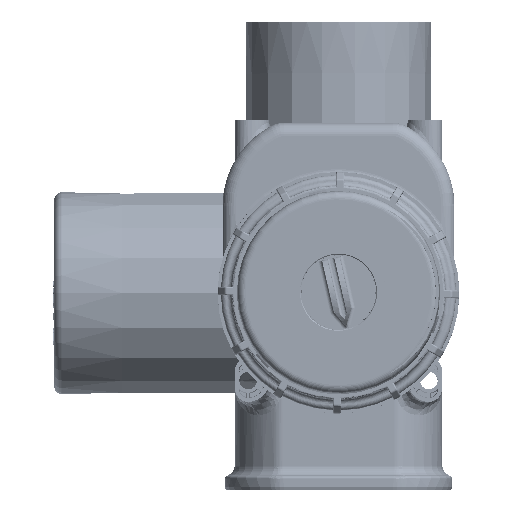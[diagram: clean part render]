
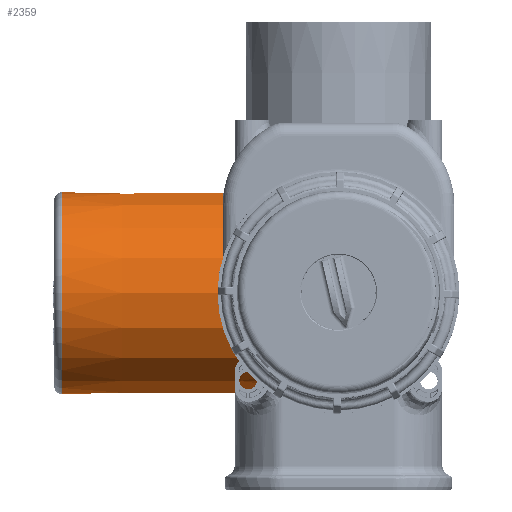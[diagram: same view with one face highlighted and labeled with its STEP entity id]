
A CAD part, top view. The second image highlights one B-rep face of the part: STEP entity #2359.
In plain terms, the highlighted conical face has half-angle 0.169 degrees and reference radius 37.994 mm.
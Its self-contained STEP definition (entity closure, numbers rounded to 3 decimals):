
#2359 = ADVANCED_FACE( '', ( #6859, #6860, #6861, #6862, #6863 ), #6864, .T. );
#6859 = FACE_BOUND( '', #13509, .T. );
#6860 = FACE_OUTER_BOUND( '', #13510, .T. );
#6861 = FACE_BOUND( '', #13511, .T. );
#6862 = FACE_BOUND( '', #13512, .T. );
#6863 = FACE_BOUND( '', #13513, .T. );
#6864 = CONICAL_SURFACE( '', #13514, 37.994, 0.003 );
#13509 = EDGE_LOOP( '', ( #34638, #34639, #34640, #34641 ) );
#13510 = EDGE_LOOP( '', ( #34642 ) );
#13511 = EDGE_LOOP( '', ( #34643 ) );
#13512 = EDGE_LOOP( '', ( #34644, #34645, #34646, #34647 ) );
#13513 = EDGE_LOOP( '', ( #34648, #34649, #34650, #34651 ) );
#13514 = AXIS2_PLACEMENT_3D( '', #34652, #34653, #34654 );
#34638 = ORIENTED_EDGE( '', *, *, #52200, .F. );
#34639 = ORIENTED_EDGE( '', *, *, #52201, .T. );
#34640 = ORIENTED_EDGE( '', *, *, #52202, .T. );
#34641 = ORIENTED_EDGE( '', *, *, #52203, .F. );
#34642 = ORIENTED_EDGE( '', *, *, #52204, .T. );
#34643 = ORIENTED_EDGE( '', *, *, #52205, .T. );
#34644 = ORIENTED_EDGE( '', *, *, #52206, .F. );
#34645 = ORIENTED_EDGE( '', *, *, #52207, .T. );
#34646 = ORIENTED_EDGE( '', *, *, #52208, .T. );
#34647 = ORIENTED_EDGE( '', *, *, #52209, .F. );
#34648 = ORIENTED_EDGE( '', *, *, #52210, .F. );
#34649 = ORIENTED_EDGE( '', *, *, #52211, .T. );
#34650 = ORIENTED_EDGE( '', *, *, #52212, .T. );
#34651 = ORIENTED_EDGE( '', *, *, #52213, .F. );
#34652 = CARTESIAN_POINT( '', ( -107., 0., 0. ) );
#34653 = DIRECTION( '', ( 1., 0., 0. ) );
#34654 = DIRECTION( '', ( 0., 0., -1. ) );
#52200 = EDGE_CURVE( '', #62298, #62299, #62300, .F. );
#52201 = EDGE_CURVE( '', #62298, #62301, #62302, .F. );
#52202 = EDGE_CURVE( '', #62301, #62303, #62304, .T. );
#52203 = EDGE_CURVE( '', #62299, #62303, #62305, .F. );
#52204 = EDGE_CURVE( '', #62306, #62306, #62307, .T. );
#52205 = EDGE_CURVE( '', #62308, #62308, #62309, .T. );
#52206 = EDGE_CURVE( '', #62310, #62311, #62312, .F. );
#52207 = EDGE_CURVE( '', #62310, #62313, #62314, .F. );
#52208 = EDGE_CURVE( '', #62313, #62315, #62316, .T. );
#52209 = EDGE_CURVE( '', #62311, #62315, #62317, .F. );
#52210 = EDGE_CURVE( '', #62318, #62319, #62320, .F. );
#52211 = EDGE_CURVE( '', #62318, #62321, #62322, .F. );
#52212 = EDGE_CURVE( '', #62321, #62323, #62324, .T. );
#52213 = EDGE_CURVE( '', #62319, #62323, #62325, .F. );
#62298 = VERTEX_POINT( '', #80237 );
#62299 = VERTEX_POINT( '', #80238 );
#62300 = CIRCLE( '', #80239, 38.222 );
#62301 = VERTEX_POINT( '', #80240 );
#62302 = LINE( '', #80241, #80242 );
#62303 = VERTEX_POINT( '', #80243 );
#62304 = CIRCLE( '', #80244, 38.216 );
#62305 = LINE( '', #80245, #80246 );
#62306 = VERTEX_POINT( '', #80247 );
#62307 = CIRCLE( '', #80248, 38.266 );
#62308 = VERTEX_POINT( '', #80249 );
#62309 = CIRCLE( '', #80250, 38.003 );
#62310 = VERTEX_POINT( '', #80251 );
#62311 = VERTEX_POINT( '', #80252 );
#62312 = CIRCLE( '', #80253, 38.222 );
#62313 = VERTEX_POINT( '', #80254 );
#62314 = LINE( '', #80255, #80256 );
#62315 = VERTEX_POINT( '', #80257 );
#62316 = CIRCLE( '', #80258, 38.216 );
#62317 = LINE( '', #80259, #80260 );
#62318 = VERTEX_POINT( '', #80261 );
#62319 = VERTEX_POINT( '', #80262 );
#62320 = CIRCLE( '', #80263, 38.222 );
#62321 = VERTEX_POINT( '', #80264 );
#62322 = LINE( '', #80265, #80266 );
#62323 = VERTEX_POINT( '', #80267 );
#62324 = CIRCLE( '', #80268, 38.216 );
#62325 = LINE( '', #80269, #80270 );
#80237 = CARTESIAN_POINT( '', ( -29.5, -16.153, -34.641 ) );
#80238 = CARTESIAN_POINT( '', ( -29.5, -21.923, -31.31 ) );
#80239 = AXIS2_PLACEMENT_3D( '', #104318, #104319, #104320 );
#80240 = CARTESIAN_POINT( '', ( -31.5, -16.151, -34.636 ) );
#80241 = CARTESIAN_POINT( '', ( -13025.002, 0., 0. ) );
#80242 = VECTOR( '', #104321, 1000. );
#80243 = CARTESIAN_POINT( '', ( -31.5, -21.92, -31.305 ) );
#80244 = AXIS2_PLACEMENT_3D( '', #104322, #104323, #104324 );
#80245 = CARTESIAN_POINT( '', ( -13025.002, 0., 0. ) );
#80246 = VECTOR( '', #104325, 1000. );
#80247 = CARTESIAN_POINT( '', ( -14.5, 0., 38.266 ) );
#80248 = AXIS2_PLACEMENT_3D( '', #104326, #104327, #104328 );
#80249 = CARTESIAN_POINT( '', ( -104.009, 0., -38.003 ) );
#80250 = AXIS2_PLACEMENT_3D( '', #104329, #104330, #104331 );
#80251 = CARTESIAN_POINT( '', ( -29.5, 38.077, 3.331 ) );
#80252 = CARTESIAN_POINT( '', ( -29.5, 38.077, -3.331 ) );
#80253 = AXIS2_PLACEMENT_3D( '', #104332, #104333, #104334 );
#80254 = CARTESIAN_POINT( '', ( -31.5, 38.071, 3.331 ) );
#80255 = CARTESIAN_POINT( '', ( -13025.002, 0., 0. ) );
#80256 = VECTOR( '', #104335, 1000. );
#80257 = CARTESIAN_POINT( '', ( -31.5, 38.071, -3.331 ) );
#80258 = AXIS2_PLACEMENT_3D( '', #104336, #104337, #104338 );
#80259 = CARTESIAN_POINT( '', ( -13025.002, 0., 0. ) );
#80260 = VECTOR( '', #104339, 1000. );
#80261 = CARTESIAN_POINT( '', ( -29.5, -21.923, 31.31 ) );
#80262 = CARTESIAN_POINT( '', ( -29.5, -16.153, 34.641 ) );
#80263 = AXIS2_PLACEMENT_3D( '', #104340, #104341, #104342 );
#80264 = CARTESIAN_POINT( '', ( -31.5, -21.92, 31.305 ) );
#80265 = CARTESIAN_POINT( '', ( -13025.002, 0., 0. ) );
#80266 = VECTOR( '', #104343, 1000. );
#80267 = CARTESIAN_POINT( '', ( -31.5, -16.151, 34.636 ) );
#80268 = AXIS2_PLACEMENT_3D( '', #104344, #104345, #104346 );
#80269 = CARTESIAN_POINT( '', ( -13025.002, 0., 0. ) );
#80270 = VECTOR( '', #104347, 1000. );
#104318 = CARTESIAN_POINT( '', ( -29.5, 0., 0. ) );
#104319 = DIRECTION( '', ( 1., 0., 0. ) );
#104320 = DIRECTION( '', ( 0., 0., -1. ) );
#104321 = DIRECTION( '', ( 1., -0.001, -0.003 ) );
#104322 = CARTESIAN_POINT( '', ( -31.5, 0., 0. ) );
#104323 = DIRECTION( '', ( -1., 0., 0. ) );
#104324 = DIRECTION( '', ( 0., 0., 1. ) );
#104325 = DIRECTION( '', ( 1., -0.002, -0.002 ) );
#104326 = CARTESIAN_POINT( '', ( -14.5, 0., 0. ) );
#104327 = DIRECTION( '', ( -1., 0., 0. ) );
#104328 = DIRECTION( '', ( 0., 0., 1. ) );
#104329 = CARTESIAN_POINT( '', ( -104.009, 0., 0. ) );
#104330 = DIRECTION( '', ( 1., 0., 0. ) );
#104331 = DIRECTION( '', ( 0., 0., -1. ) );
#104332 = CARTESIAN_POINT( '', ( -29.5, 0., 0. ) );
#104333 = DIRECTION( '', ( 1., 0., 0. ) );
#104334 = DIRECTION( '', ( 0., 0., -1. ) );
#104335 = DIRECTION( '', ( 1., 0.003, 0. ) );
#104336 = CARTESIAN_POINT( '', ( -31.5, 0., 0. ) );
#104337 = DIRECTION( '', ( -1., 0., 0. ) );
#104338 = DIRECTION( '', ( 0., 0., 1. ) );
#104339 = DIRECTION( '', ( 1., 0.003, 0. ) );
#104340 = CARTESIAN_POINT( '', ( -29.5, 0., 0. ) );
#104341 = DIRECTION( '', ( 1., 0., 0. ) );
#104342 = DIRECTION( '', ( 0., 0., -1. ) );
#104343 = DIRECTION( '', ( 1., -0.002, 0.002 ) );
#104344 = CARTESIAN_POINT( '', ( -31.5, 0., 0. ) );
#104345 = DIRECTION( '', ( -1., 0., 0. ) );
#104346 = DIRECTION( '', ( 0., 0., 1. ) );
#104347 = DIRECTION( '', ( 1., -0.001, 0.003 ) );
